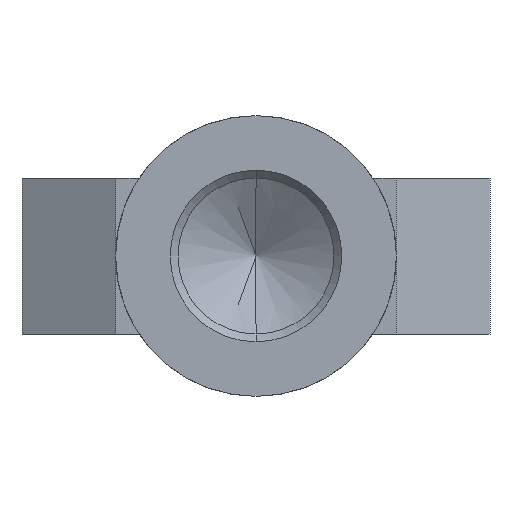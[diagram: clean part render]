
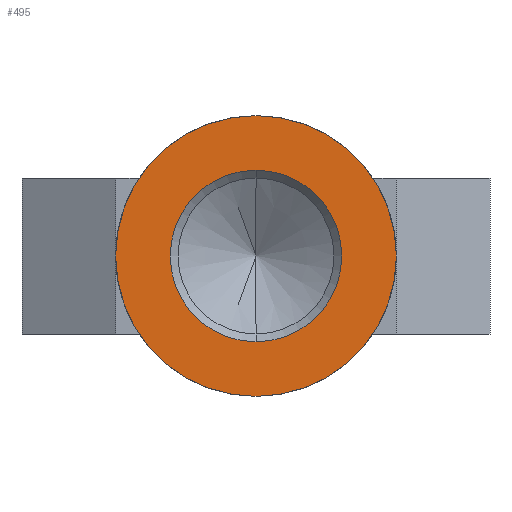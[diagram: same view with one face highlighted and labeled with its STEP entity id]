
A CAD part, front view. The second image highlights one B-rep face of the part: STEP entity #495.
In plain terms, the highlighted planar face has unit normal (0, -1, 0).
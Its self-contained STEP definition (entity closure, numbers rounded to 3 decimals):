
#24 = AXIS2_PLACEMENT_3D ( 'NONE', #797, #491, #812 ) ;
#41 = AXIS2_PLACEMENT_3D ( 'NONE', #173, #604, #113 ) ;
#66 = CIRCLE ( 'NONE', #85, 4.5 ) ;
#74 = AXIS2_PLACEMENT_3D ( 'NONE', #289, #617, #414 ) ;
#85 = AXIS2_PLACEMENT_3D ( 'NONE', #610, #355, #136 ) ;
#93 = EDGE_CURVE ( 'NONE', #381, #194, #66, .T. ) ;
#113 = DIRECTION ( 'NONE',  ( 0., 0., -1. ) ) ;
#136 = DIRECTION ( 'NONE',  ( 0., 0., 1. ) ) ;
#173 = CARTESIAN_POINT ( 'NONE',  ( 0., 0., 0. ) ) ;
#186 = ORIENTED_EDGE ( 'NONE', *, *, #93, .F. ) ;
#193 = ORIENTED_EDGE ( 'NONE', *, *, #561, .F. ) ;
#194 = VERTEX_POINT ( 'NONE', #201 ) ;
#196 = ORIENTED_EDGE ( 'NONE', *, *, #700, .F. ) ;
#201 = CARTESIAN_POINT ( 'NONE',  ( 0., 0., -4.5 ) ) ;
#256 = ORIENTED_EDGE ( 'NONE', *, *, #713, .F. ) ;
#289 = CARTESIAN_POINT ( 'NONE',  ( 0., 0., 0. ) ) ;
#321 = CIRCLE ( 'NONE', #41, 2.75 ) ;
#324 = VERTEX_POINT ( 'NONE', #704 ) ;
#355 = DIRECTION ( 'NONE',  ( 0., 1., 0. ) ) ;
#374 = CIRCLE ( 'NONE', #74, 2.75 ) ;
#381 = VERTEX_POINT ( 'NONE', #720 ) ;
#414 = DIRECTION ( 'NONE',  ( 0., 0., -1. ) ) ;
#441 = FACE_BOUND ( 'NONE', #757, .T. ) ;
#473 = PLANE ( 'NONE',  #512 ) ;
#491 = DIRECTION ( 'NONE',  ( 0., 1., 0. ) ) ;
#495 = ADVANCED_FACE ( 'NONE', ( #441, #607 ), #473, .F. ) ;
#512 = AXIS2_PLACEMENT_3D ( 'NONE', #667, #674, #796 ) ;
#513 = EDGE_LOOP ( 'NONE', ( #196, #186 ) ) ;
#561 = EDGE_CURVE ( 'NONE', #324, #599, #321, .T. ) ;
#599 = VERTEX_POINT ( 'NONE', #601 ) ;
#601 = CARTESIAN_POINT ( 'NONE',  ( 0., 0., 2.75 ) ) ;
#604 = DIRECTION ( 'NONE',  ( 0., -1., 0. ) ) ;
#607 = FACE_OUTER_BOUND ( 'NONE', #513, .T. ) ;
#610 = CARTESIAN_POINT ( 'NONE',  ( 0., 0., 0. ) ) ;
#617 = DIRECTION ( 'NONE',  ( 0., -1., 0. ) ) ;
#667 = CARTESIAN_POINT ( 'NONE',  ( 0., 0., 0. ) ) ;
#674 = DIRECTION ( 'NONE',  ( 0., 1., 0. ) ) ;
#694 = CIRCLE ( 'NONE', #24, 4.5 ) ;
#700 = EDGE_CURVE ( 'NONE', #194, #381, #694, .T. ) ;
#704 = CARTESIAN_POINT ( 'NONE',  ( 0., 0., -2.75 ) ) ;
#713 = EDGE_CURVE ( 'NONE', #599, #324, #374, .T. ) ;
#720 = CARTESIAN_POINT ( 'NONE',  ( 0., 0., 4.5 ) ) ;
#757 = EDGE_LOOP ( 'NONE', ( #193, #256 ) ) ;
#796 = DIRECTION ( 'NONE',  ( 0., 0., 1. ) ) ;
#797 = CARTESIAN_POINT ( 'NONE',  ( 0., 0., 0. ) ) ;
#812 = DIRECTION ( 'NONE',  ( 0., 0., 1. ) ) ;
